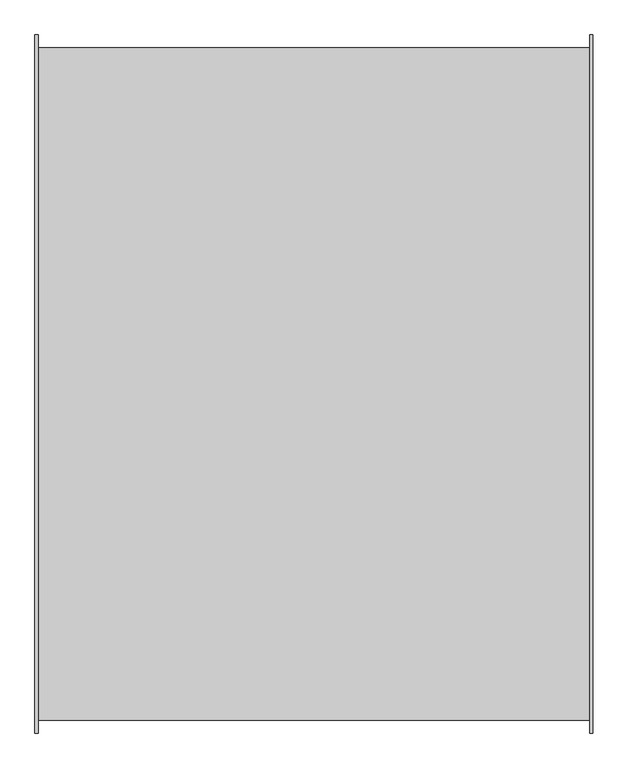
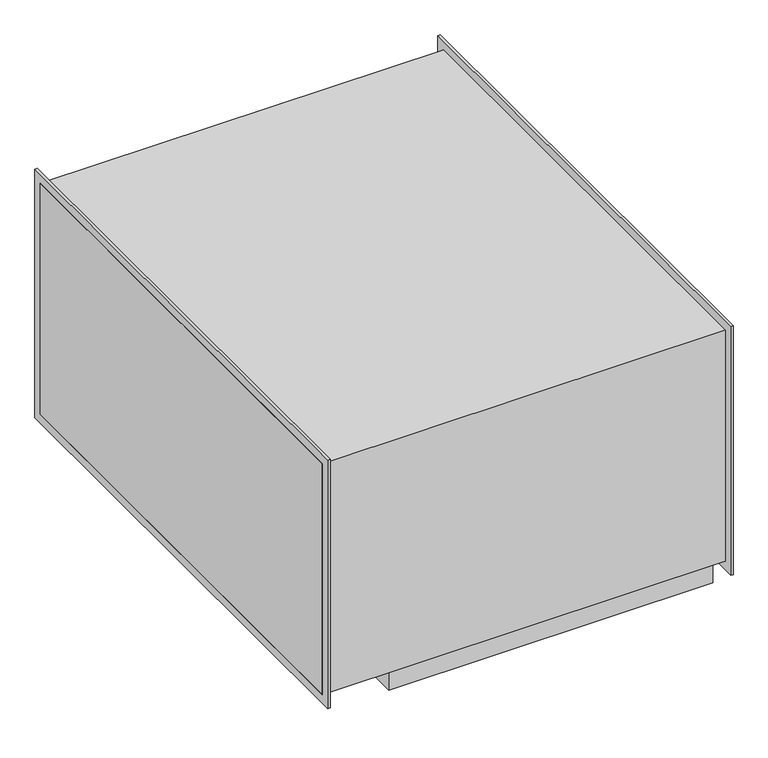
"""IFC4 building model written with IfcOpenShell, lengths in millimetres: unitary equipment geometry, VE-Wentylator-ParaForma-Harmann-DRB-Nawiewny : 100/50/11400T."""

from ifc_helpers import new_model, si_unit, point, frame, frame_2d, origin, place, context, project, spatial, polyline, circle_curve, trimmed, segment, composite_curve, outline, extrude, faceted_brep, source, transform, mapped, element, save
from ifc_brep_helpers import plane_surface, revolved_surface, advanced_brep


def unitary_equipment_2857cd75(model_context):
    return source(origin(), model_context, "Body", "SolidModel", [
        faceted_brep([(-277.4, -497.0, -290.4), (-277.4, -497.0, -250.0), (-277.4, 497.0, -250.0), (-277.4, 497.0, -290.4), (386.6, -497.0, -290.4), (386.6, 497.0, -290.4), (386.6, 497.0, -250.0), (386.6, -497.0, -250.0), (-272.4, 492.0, -290.4), (-272.4, -492.0, -290.4), (381.6, -492.0, -290.4), (381.6, 492.0, -290.4), (-272.4, 492.0, -250.0), (-272.4, -492.0, -250.0), (381.6, -492.0, -250.0), (381.6, 492.0, -250.0), (-415.0, -500.0, 250.0), (-415.0, -500.0, -250.0), (415.0, -500.0, -250.0), (415.0, -500.0, 250.0), (-415.0, 500.0, 250.0), (415.0, 500.0, 250.0), (-415.0, 500.0, -250.0), (415.0, 500.0, -250.0)], [[[0, 1, 2, 3]], [[4, 5, 6, 7]], [[1, 0, 4, 7]], [[3, 2, 6, 5]], [[0, 3, 5, 4], [8, 9, 10, 11]], [[8, 12, 13, 9]], [[10, 14, 15, 11]], [[9, 13, 14, 10]], [[12, 8, 11, 15]], [[16, 17, 18, 19]], [[20, 16, 19, 21]], [[22, 20, 21, 23]], [[13, 12, 15, 14]], [[18, 17, 22, 23], [2, 1, 7, 6]], [[17, 16, 20, 22]], [[18, 23, 21, 19]]]),
        extrude(outline(polyline([(-519.2, -269.2), (-519.2, 269.2), (519.2, 269.2), (519.2, -269.2), (-519.2, -269.2)]), holes=[polyline([(-500.0, -250.0), (500.0, -250.0), (500.0, 250.0), (-500.0, 250.0), (-500.0, -250.0)])]), frame((410.0, 0.0, 0.0), z_axis=(1.0, 0.0, 0.0), x_axis=(0.0, 1.0, 0.0)), (0.0, 0.0, 1.0), 5.0),
        extrude(outline(polyline([(-519.2, -269.2), (-519.2, 269.2), (519.2, 269.2), (519.2, -269.2), (-519.2, -269.2)]), holes=[polyline([(-500.0, -250.0), (500.0, -250.0), (500.0, 250.0), (-500.0, 250.0), (-500.0, -250.0)])]), frame((-415.0, 0.0, 0.0), z_axis=(1.0, 0.0, 0.0), x_axis=(0.0, 1.0, 0.0)), (0.0, 0.0, 1.0), 5.0),
        extrude(outline(composite_curve([segment(polyline([(77.5, 377.3), (-22.5, 377.3)]), True, "CONTINUOUS"), segment(trimmed(circle_curve(frame_2d((-22.5, 382.3)), 5.0), [point((-22.5, 377.3))], [point((-27.5, 382.3))], False, "CARTESIAN"), True, "CONTINUOUS"), segment(polyline([(-27.5, 382.3), (-27.5, 467.3)]), True, "CONTINUOUS"), segment(trimmed(circle_curve(frame_2d((-22.5, 467.3)), 5.0), [point((-27.5, 467.3))], [point((-22.5, 472.3))], False, "CARTESIAN"), True, "CONTINUOUS"), segment(polyline([(-22.5, 472.3), (77.5, 472.3)]), True, "CONTINUOUS"), segment(trimmed(circle_curve(frame_2d((77.5, 467.3)), 5.0), [point((77.5, 472.3))], [point((82.5, 467.3))], False, "CARTESIAN"), True, "CONTINUOUS"), segment(polyline([(82.5, 467.3), (82.5, 382.3)]), True, "CONTINUOUS"), segment(trimmed(circle_curve(frame_2d((77.5, 382.3)), 5.0), [point((82.5, 382.3))], [point((77.5, 377.3))], False, "CARTESIAN"), True, "CONTINUOUS")], self_intersect=False)), frame((0.0, 0.0, -299.5), z_axis=(0.0, 0.0, 1.0), x_axis=(1.0, 0.0, 0.0)), (0.0, 0.0, 1.0), 49.5),
        advanced_brep(
        [(27.5, -161.75, -265.0), (27.5, -21.25, -265.0), (27.5, -181.5, -250.0), (27.5, -1.5, -250.0)],
        [
            (0, 1, circle_curve(frame((27.5, -91.5, -265.0), z_axis=(0.0, 0.0, -1.0), x_axis=(0.0, -1.0, 0.0)), 70.25)),
            (1, 0, circle_curve(frame((27.5, -91.5, -265.0), z_axis=(0.0, 0.0, -1.0), x_axis=(0.0, 1.0, 0.0)), 70.25)),
            (2, 3, circle_curve(frame((27.5, -91.5, -250.0), z_axis=(0.0, 0.0, 1.0), x_axis=(0.0, 1.0, 0.0)), 90.0)),
            (3, 2, circle_curve(frame((27.5, -91.5, -250.0), z_axis=(0.0, 0.0, 1.0), x_axis=(0.0, -1.0, 0.0)), 90.0)),
            (3, 1),
            (0, 2),
        ],
        [
            plane_surface(frame((27.5, -91.5, -265.0), z_axis=(0.0, 0.0, -1.0), x_axis=(-1.0, 0.0, 0.0))),
            plane_surface(frame((27.5, -91.5, -250.0), z_axis=(0.0, 0.0, 1.0), x_axis=(-1.0, 0.0, 0.0))),
            revolved_surface(polyline([(27.5, -161.75000000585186, -265.0), (27.5, -181.5, -250.0)]), (27.5, -91.5, -318.3544304), (0.0, 0.0, 1.0)),
            revolved_surface(polyline([(27.5, -21.24999999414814, -265.0), (27.5, -1.5, -250.0)]), (27.5, -91.5, -318.3544304), (0.0, 0.0, 1.0)),
        ],
        [
            (0, [[1, 2]]),
            (1, [[3, 4]]),
            (2, [[-4, 5, -1, 6]]),
            (3, [[-3, -6, -2, -5]]),
        ],
    ),
    ])


if __name__ == "__main__":
    model = new_model("IFC4")
    model_context = context("Model", 3, world=origin())
    ifc_project = project(units=[si_unit("LENGTHUNIT", "METRE", prefix="MILLI")], contexts=[model_context])
    site = spatial("IfcSite", under=ifc_project)
    building = spatial("IfcBuilding", under=site)
    placement = place(None, origin())
    unitary_equipment_shape = unitary_equipment_2857cd75(model_context)
    element("IfcUnitaryEquipment", 1, ObjectType="VE-Wentylator-ParaForma-Harmann-DRB-Nawiewny : 100/50/11400T", at=placement, inside=building, context=model_context, shape_type="MappedRepresentation", body=[
        mapped(unitary_equipment_shape, transform((0.0, 0.0, 0.0), x_axis=(1.0, 0.0, 0.0), y_axis=(0.0, 1.0, 0.0), z_axis=(0.0, 0.0, 1.0))),
    ])
    save(model, "model.ifc")
